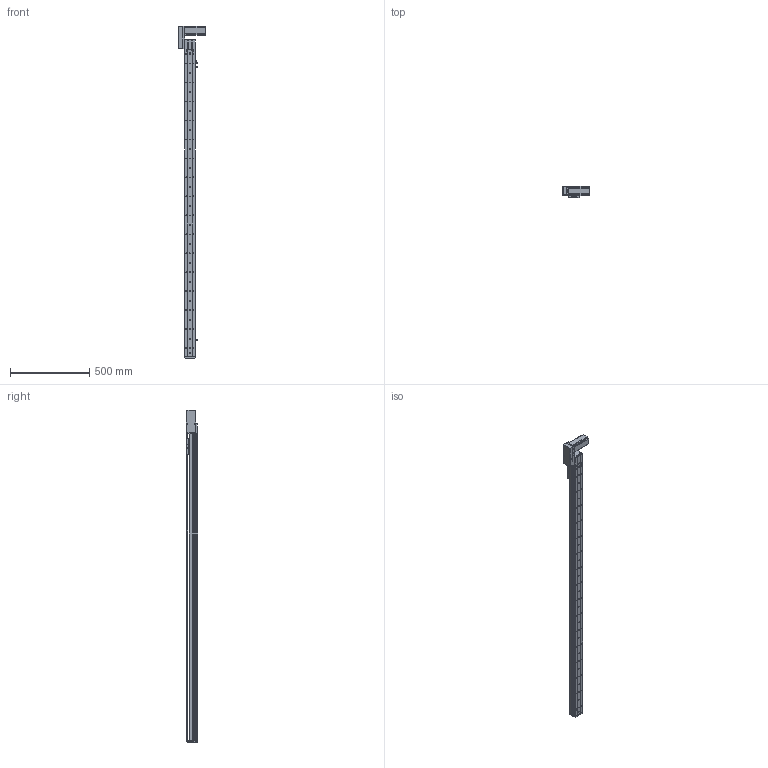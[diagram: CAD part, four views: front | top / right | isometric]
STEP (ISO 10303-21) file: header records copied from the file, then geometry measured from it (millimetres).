
FILE_DESCRIPTION (( 'STEP AP214' ), '1' );
FILE_NAME ('KSD68BS-S1750-MRB-CM.STEP', '2019-11-06T08:04:12', ( '微软用户' ), ( '微软中国' ), 'SwSTEP 2.0', 'SolidWorks 2014', '' );
FILE_SCHEMA (( 'AUTOMOTIVE_DESIGN' ));
Length unit declared in the file: millimetre
Products named in the file (11): 68宽马达安装板连板上折同步带; 68宽单导轨半封闭同步带主动轮座右; 68单导轨同步带半封闭端板; KSD68BS 1750俴最裔啣圉猾敕; 覜茼え68遵圉猾敕; KSD68BS半封闭同步带传动导轨座; U倰嫖萇EEㄜSX672; 台达ECMA－C20604AS伺服电机（400W); KSD68BS 1750俴最菁啣圉猾敕; KSD68BS-S1750-MRB-CM; 悵誘欶奻狟殏
Assembly tree (12 placements, depth 2):
  KSD68BS-S1750-MRB-CM
    KSD68BS 1750俴最菁啣圉猾敕
    台达ECMA－C20604AS伺服电机（400W)
    U倰嫖萇EEㄜSX672  x3
    KSD68BS半封闭同步带传动导轨座
    覜茼え68遵圉猾敕
    KSD68BS 1750俴最裔啣圉猾敕
    68单导轨同步带半封闭端板
    68宽单导轨半封闭同步带主动轮座右
    68宽马达安装板连板上折同步带
    悵誘欶奻狟殏
Bounding box: 167.2 x 70.5 x 2099.5 mm (x, y, z)
Volume: 3316288.9 mm3; surface area: 1241364.5 mm2
Topology: 13 solids, 13 shells, 1642 faces, 4828 edges, 3148 vertices
Faces by surface type: cylinder 874, plane 685, cone 83
Entity records: 64793 total; most frequent: CARTESIAN_POINT 13178, ORIENTED_EDGE 8408, DIRECTION 8096, EDGE_CURVE 4204, AXIS2_PLACEMENT_3D 2922, VERTEX_POINT 2772, VECTOR 2252, LINE 2252
